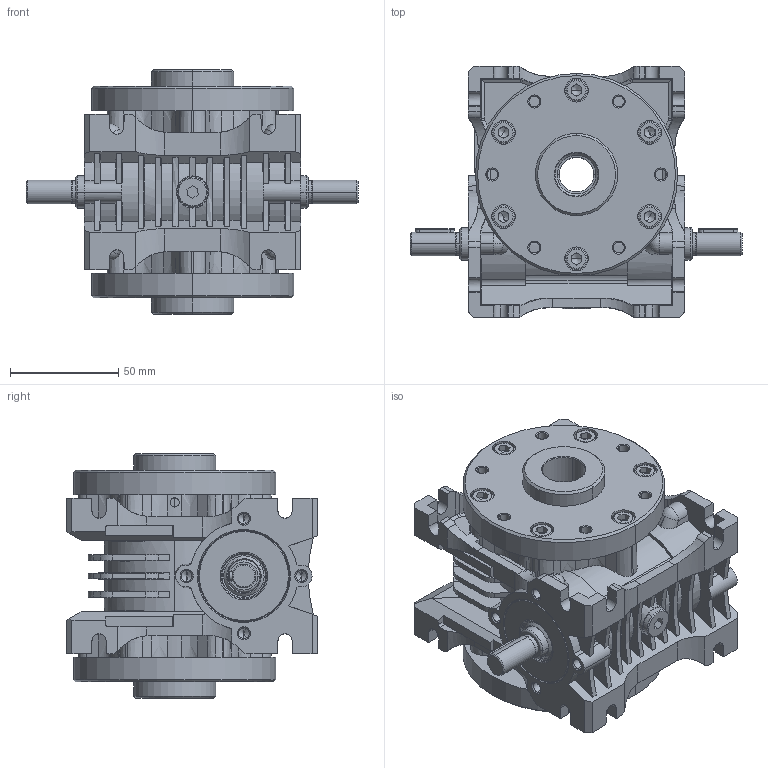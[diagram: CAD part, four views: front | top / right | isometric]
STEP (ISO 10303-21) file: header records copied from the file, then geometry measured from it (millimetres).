
FILE_DESCRIPTION (( 'STEP AP203' ), '1' );
FILE_NAME ('MRP-32_WBS2_SP.STEP', '2023-10-17T11:27:13', ( '' ), ( '' ), 'SwSTEP 2.0', 'SolidWorks 2022', '' );
FILE_SCHEMA (( 'CONFIG_CONTROL_DESIGN' ));
Length unit declared in the file: millimetre
Products named in the file (1): MRP-32_WBS2_SP
Bounding box: 153.5 x 116 x 113 mm (x, y, z)
Volume: 644008.4 mm3; surface area: 146610.6 mm2
Topology: 1 solids, 39 shells, 2408 faces, 5843 edges, 3526 vertices
Faces by surface type: plane 716, cylinder 674, cone 587, torus 302, bspline 102, sphere 27
Entity records: 72608 total; most frequent: CARTESIAN_POINT 17139, DIRECTION 11934, ORIENTED_EDGE 11558, EDGE_CURVE 5779, AXIS2_PLACEMENT_3D 4657, VERTEX_POINT 3526, LINE 2620, VECTOR 2620
